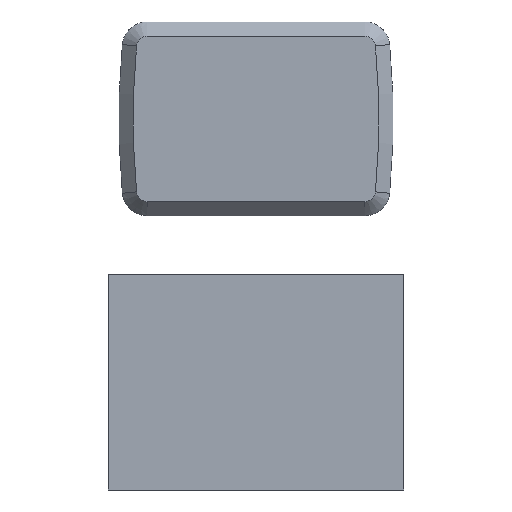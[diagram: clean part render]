
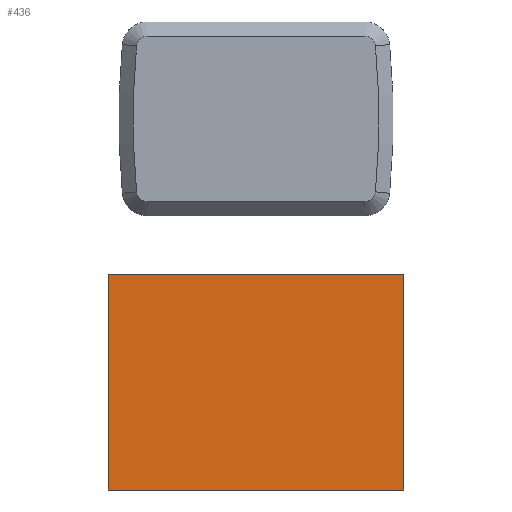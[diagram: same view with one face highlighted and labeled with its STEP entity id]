
A CAD part, front view. The second image highlights one B-rep face of the part: STEP entity #436.
In plain terms, the highlighted planar face has unit normal (0, -1, 0).
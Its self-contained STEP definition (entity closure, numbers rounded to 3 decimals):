
#17 = CARTESIAN_POINT ( 'NONE',  ( -152.718, -15., -101. ) ) ;
#69 = VECTOR ( 'NONE', #589, 1000. ) ;
#115 = LINE ( 'NONE', #1199, #654 ) ;
#118 = ORIENTED_EDGE ( 'NONE', *, *, #364, .T. ) ;
#132 = CARTESIAN_POINT ( 'NONE',  ( 207.5, -15., 151. ) ) ;
#165 = DIRECTION ( 'NONE',  ( 0., 0., -1. ) ) ;
#192 = VERTEX_POINT ( 'NONE', #460 ) ;
#217 = EDGE_CURVE ( 'NONE', #192, #561, #1138, .T. ) ;
#250 = CARTESIAN_POINT ( 'NONE',  ( 207.5, -15., -151. ) ) ;
#364 = EDGE_CURVE ( 'NONE', #551, #192, #115, .T. ) ;
#365 = VECTOR ( 'NONE', #584, 1000. ) ;
#370 = FACE_OUTER_BOUND ( 'NONE', #1156, .T. ) ;
#436 = ADVANCED_FACE ( 'NONE', ( #370 ), #1135, .F. ) ;
#460 = CARTESIAN_POINT ( 'NONE',  ( -207.5, -15., -151. ) ) ;
#479 = DIRECTION ( 'NONE',  ( 0., 0., 1. ) ) ;
#510 = LINE ( 'NONE', #600, #365 ) ;
#551 = VERTEX_POINT ( 'NONE', #1188 ) ;
#561 = VERTEX_POINT ( 'NONE', #250 ) ;
#562 = LINE ( 'NONE', #132, #69 ) ;
#567 = CARTESIAN_POINT ( 'NONE',  ( -207.5, -15., -151. ) ) ;
#584 = DIRECTION ( 'NONE',  ( -1., 0., 0. ) ) ;
#589 = DIRECTION ( 'NONE',  ( 0., 0., 1. ) ) ;
#600 = CARTESIAN_POINT ( 'NONE',  ( -207.5, -15., 151. ) ) ;
#654 = VECTOR ( 'NONE', #165, 1000. ) ;
#661 = DIRECTION ( 'NONE',  ( 0., 1., 0. ) ) ;
#716 = EDGE_CURVE ( 'NONE', #561, #803, #562, .T. ) ;
#741 = AXIS2_PLACEMENT_3D ( 'NONE', #17, #661, #479 ) ;
#765 = VECTOR ( 'NONE', #1136, 1000. ) ;
#803 = VERTEX_POINT ( 'NONE', #983 ) ;
#914 = ORIENTED_EDGE ( 'NONE', *, *, #217, .T. ) ;
#916 = ORIENTED_EDGE ( 'NONE', *, *, #716, .T. ) ;
#983 = CARTESIAN_POINT ( 'NONE',  ( 207.5, -15., 151. ) ) ;
#1118 = EDGE_CURVE ( 'NONE', #803, #551, #510, .T. ) ;
#1135 = PLANE ( 'NONE',  #741 ) ;
#1136 = DIRECTION ( 'NONE',  ( 1., 0., 0. ) ) ;
#1138 = LINE ( 'NONE', #567, #765 ) ;
#1156 = EDGE_LOOP ( 'NONE', ( #916, #1164, #118, #914 ) ) ;
#1164 = ORIENTED_EDGE ( 'NONE', *, *, #1118, .T. ) ;
#1188 = CARTESIAN_POINT ( 'NONE',  ( -207.5, -15., 151. ) ) ;
#1199 = CARTESIAN_POINT ( 'NONE',  ( -207.5, -15., 151. ) ) ;
